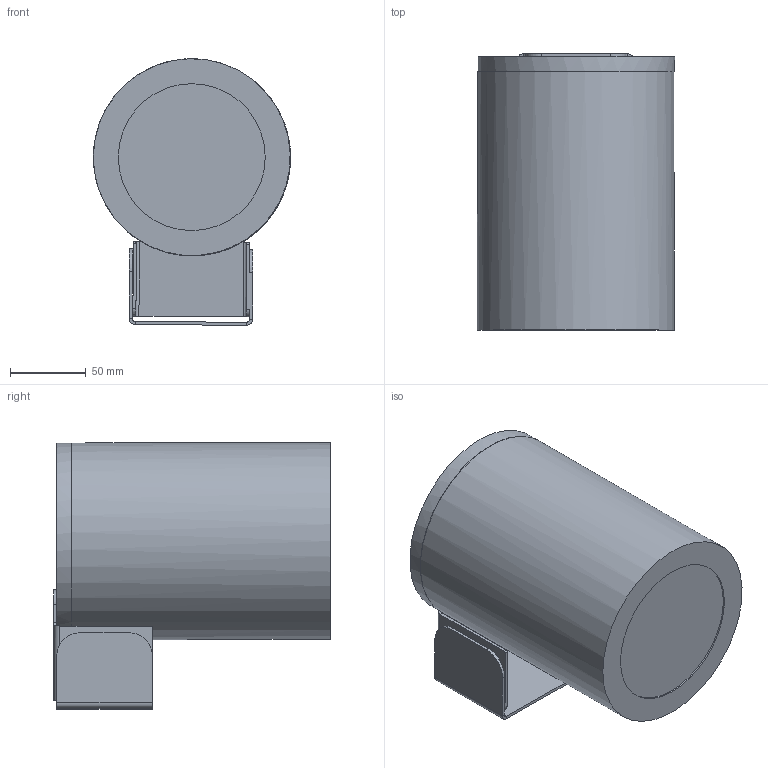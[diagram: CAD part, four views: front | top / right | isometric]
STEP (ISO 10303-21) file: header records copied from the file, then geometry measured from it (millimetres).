
FILE_DESCRIPTION(/* description */ (''),/* implementation_level */ '2;1');
FILE_NAME(/* name */ 'C:\Users\Giulia\Desktop\1586 - CHILLOUT.stp',/* time_stamp */ '2015-04-24T12:42:58+02:00',/* author */ ('Giulia'),/* organization */ (''),/* preprocessor_version */ 'ST-DEVELOPER v15.6',/* originating_system */ 'Autodesk Inventor 2015',/* authorisation */ '');
FILE_SCHEMA (('AUTOMOTIVE_DESIGN { 1 0 10303 214 3 1 1 }'));
Length unit declared in the file: centimetre
Products named in the file (1): 1586 - CHILLOUT
Bounding box: 130.27 x 182.5 x 175.99 mm (x, y, z)
Volume: 736033.3 mm3; surface area: 230080.7 mm2
Topology: 1 solids, 9 shells, 110 faces, 222 edges, 135 vertices
Faces by surface type: plane 67, cylinder 41, bspline 2
Full cylindrical faces by diameter (mm): 3 x7, 4 x2, 14 x1, 30 x1, 97 x1, 99 x2, 101 x2, 108.5 x2, 125 x1, 130 x2
Entity records: 2748 total; most frequent: CARTESIAN_POINT 564, DIRECTION 485, ORIENTED_EDGE 372, AXIS2_PLACEMENT_3D 197, EDGE_CURVE 186, EDGE_LOOP 141, VERTEX_POINT 121, FACE_OUTER_BOUND 110
